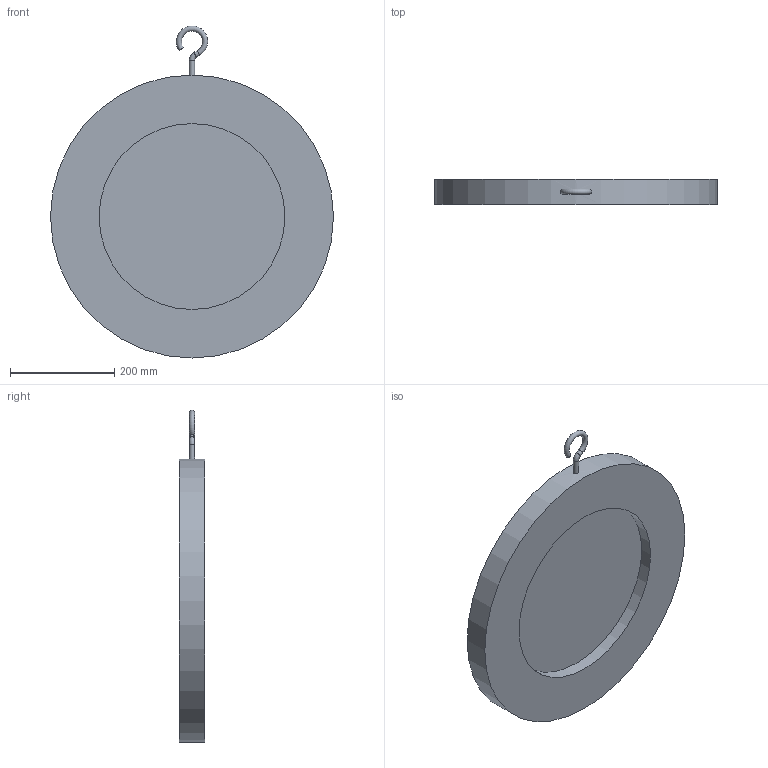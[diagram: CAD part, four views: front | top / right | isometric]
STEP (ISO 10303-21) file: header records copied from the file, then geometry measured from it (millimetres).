
FILE_DESCRIPTION(('STEP AP203'), '1');
FILE_NAME('孰囡囗 钺疣蝽 钿眍耱忸瘅囹 戾骠豚眦邂 008C.Y DN450', '', ('UNSPECIFIED'), ('UNSPECIFIED'), 'ASCON STEP Converter 1.6', 'ASCON Math Kernel', '');
FILE_SCHEMA(('CONFIG_CONTROL_DESIGN'));
Length unit declared in the file: millimetre
Bounding box: 542 x 48 x 635.98 mm (x, y, z)
Volume: 6639046.5 mm3; surface area: 614441.1 mm2
Topology: 1 solids, 1 shells, 31 faces, 69 edges, 45 vertices
Faces by surface type: plane 16, cylinder 12, torus 2, cone 1
Full cylindrical faces by diameter (mm): 10 x2, 356 x1, 542 x1
Entity records: 1392 total; most frequent: CARTESIAN_POINT 429, DIRECTION 146, ORIENTED_EDGE 124, EDGE_CURVE 62, AXIS2_PLACEMENT_3D 57, VERTEX_POINT 45, EDGE_LOOP 43, COLOUR_RGB 32
